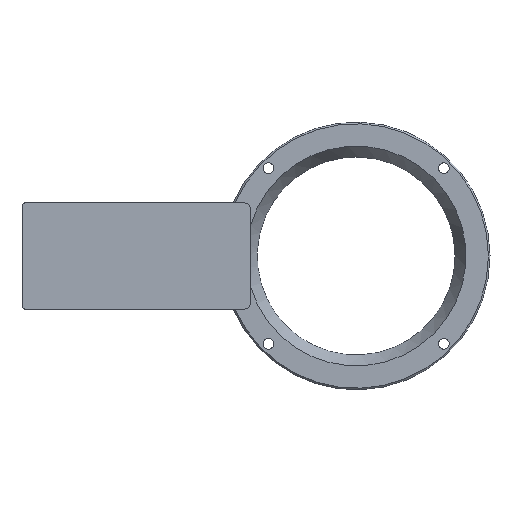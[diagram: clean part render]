
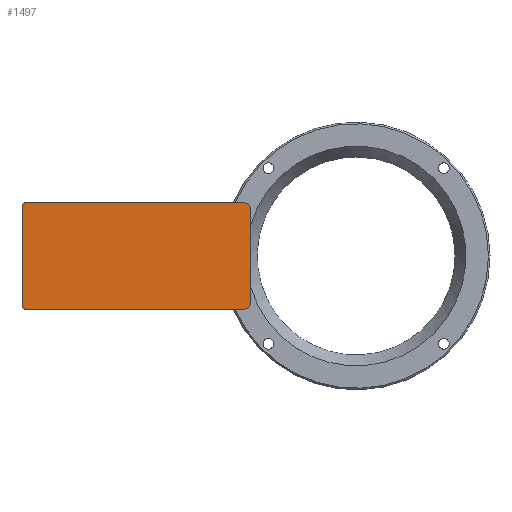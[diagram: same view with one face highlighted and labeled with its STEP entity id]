
A CAD part, front view. The second image highlights one B-rep face of the part: STEP entity #1497.
In plain terms, the highlighted planar face has unit normal (0, -1, 0).
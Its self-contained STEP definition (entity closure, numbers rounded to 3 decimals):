
#44 = PLANE ( 'NONE',  #1165 ) ;
#113 = DIRECTION ( 'NONE',  ( 0., 1., 0. ) ) ;
#390 = ORIENTED_EDGE ( 'NONE', *, *, #2832, .F. ) ;
#411 = AXIS2_PLACEMENT_3D ( 'NONE', #4067, #113, #1003 ) ;
#527 = CARTESIAN_POINT ( 'NONE',  ( -40.926, -51.439, -31.751 ) ) ;
#656 = DIRECTION ( 'NONE',  ( 0., 1., 0. ) ) ;
#705 = VERTEX_POINT ( 'NONE', #3160 ) ;
#811 = LINE ( 'NONE', #2265, #6059 ) ;
#827 = CIRCLE ( 'NONE', #4333, 2. ) ;
#987 = EDGE_LOOP ( 'NONE', ( #2963, #2881, #5434, #5670, #5502, #390, #5607, #4020 ) ) ;
#1003 = DIRECTION ( 'NONE',  ( 0., 0., -1. ) ) ;
#1083 = DIRECTION ( 'NONE',  ( 0., 0., 1. ) ) ;
#1165 = AXIS2_PLACEMENT_3D ( 'NONE', #5943, #4009, #1083 ) ;
#1251 = AXIS2_PLACEMENT_3D ( 'NONE', #5092, #656, #2729 ) ;
#1278 = DIRECTION ( 'NONE',  ( 0., 1., 0. ) ) ;
#1497 = ADVANCED_FACE ( 'NONE', ( #4543 ), #44, .T. ) ;
#1531 = VERTEX_POINT ( 'NONE', #2042 ) ;
#1704 = LINE ( 'NONE', #3682, #2690 ) ;
#2042 = CARTESIAN_POINT ( 'NONE',  ( -39.926, -51.439, -32.751 ) ) ;
#2265 = CARTESIAN_POINT ( 'NONE',  ( 29.074, -51.439, -2.251 ) ) ;
#2374 = CIRCLE ( 'NONE', #411, 1. ) ;
#2394 = DIRECTION ( 'NONE',  ( 0., 0., -1. ) ) ;
#2447 = VERTEX_POINT ( 'NONE', #5202 ) ;
#2552 = VERTEX_POINT ( 'NONE', #4458 ) ;
#2690 = VECTOR ( 'NONE', #5076, 1000. ) ;
#2729 = DIRECTION ( 'NONE',  ( 0., 0., -1. ) ) ;
#2832 = EDGE_CURVE ( 'NONE', #2447, #705, #6016, .T. ) ;
#2881 = ORIENTED_EDGE ( 'NONE', *, *, #2943, .F. ) ;
#2936 = CARTESIAN_POINT ( 'NONE',  ( 29.074, -51.439, -2.251 ) ) ;
#2943 = EDGE_CURVE ( 'NONE', #6144, #2552, #811, .T. ) ;
#2963 = ORIENTED_EDGE ( 'NONE', *, *, #5113, .F. ) ;
#3050 = DIRECTION ( 'NONE',  ( 0., 0., 1. ) ) ;
#3160 = CARTESIAN_POINT ( 'NONE',  ( -40.926, -51.439, -1.251 ) ) ;
#3188 = VECTOR ( 'NONE', #3050, 1000. ) ;
#3236 = VERTEX_POINT ( 'NONE', #6073 ) ;
#3384 = DIRECTION ( 'NONE',  ( 0., 1., 0. ) ) ;
#3420 = DIRECTION ( 'NONE',  ( 0., 0., -1. ) ) ;
#3580 = EDGE_CURVE ( 'NONE', #705, #4741, #5574, .T. ) ;
#3633 = CIRCLE ( 'NONE', #6087, 2. ) ;
#3682 = CARTESIAN_POINT ( 'NONE',  ( -30.926, -51.439, -32.751 ) ) ;
#3948 = EDGE_CURVE ( 'NONE', #3236, #6144, #3633, .T. ) ;
#4009 = DIRECTION ( 'NONE',  ( 0., -1., 0. ) ) ;
#4020 = ORIENTED_EDGE ( 'NONE', *, *, #5937, .F. ) ;
#4067 = CARTESIAN_POINT ( 'NONE',  ( -39.926, -51.439, -31.751 ) ) ;
#4333 = AXIS2_PLACEMENT_3D ( 'NONE', #5477, #3384, #3420 ) ;
#4458 = CARTESIAN_POINT ( 'NONE',  ( 29.074, -51.439, -30.751 ) ) ;
#4536 = CARTESIAN_POINT ( 'NONE',  ( -30.926, -51.439, -0.251 ) ) ;
#4543 = FACE_OUTER_BOUND ( 'NONE', #987, .T. ) ;
#4666 = VECTOR ( 'NONE', #5621, 1000. ) ;
#4741 = VERTEX_POINT ( 'NONE', #5591 ) ;
#4752 = CARTESIAN_POINT ( 'NONE',  ( 27.074, -51.439, -32.751 ) ) ;
#4796 = VERTEX_POINT ( 'NONE', #4752 ) ;
#5076 = DIRECTION ( 'NONE',  ( -1., 0., 0. ) ) ;
#5092 = CARTESIAN_POINT ( 'NONE',  ( -39.926, -51.439, -1.251 ) ) ;
#5113 = EDGE_CURVE ( 'NONE', #2552, #4796, #827, .T. ) ;
#5202 = CARTESIAN_POINT ( 'NONE',  ( -40.926, -51.439, -31.751 ) ) ;
#5434 = ORIENTED_EDGE ( 'NONE', *, *, #3948, .F. ) ;
#5477 = CARTESIAN_POINT ( 'NONE',  ( 27.074, -51.439, -30.751 ) ) ;
#5502 = ORIENTED_EDGE ( 'NONE', *, *, #3580, .F. ) ;
#5574 = CIRCLE ( 'NONE', #1251, 1. ) ;
#5591 = CARTESIAN_POINT ( 'NONE',  ( -39.926, -51.439, -0.251 ) ) ;
#5598 = LINE ( 'NONE', #4536, #4666 ) ;
#5607 = ORIENTED_EDGE ( 'NONE', *, *, #5997, .F. ) ;
#5621 = DIRECTION ( 'NONE',  ( 1., 0., 0. ) ) ;
#5670 = ORIENTED_EDGE ( 'NONE', *, *, #6255, .F. ) ;
#5719 = CARTESIAN_POINT ( 'NONE',  ( 27.074, -51.439, -2.251 ) ) ;
#5780 = DIRECTION ( 'NONE',  ( 0., 0., -1. ) ) ;
#5937 = EDGE_CURVE ( 'NONE', #4796, #1531, #1704, .T. ) ;
#5943 = CARTESIAN_POINT ( 'NONE',  ( -5.926, -51.439, -16.501 ) ) ;
#5997 = EDGE_CURVE ( 'NONE', #1531, #2447, #2374, .T. ) ;
#6016 = LINE ( 'NONE', #527, #3188 ) ;
#6059 = VECTOR ( 'NONE', #2394, 1000. ) ;
#6073 = CARTESIAN_POINT ( 'NONE',  ( 27.074, -51.439, -0.251 ) ) ;
#6087 = AXIS2_PLACEMENT_3D ( 'NONE', #5719, #1278, #5780 ) ;
#6144 = VERTEX_POINT ( 'NONE', #2936 ) ;
#6255 = EDGE_CURVE ( 'NONE', #4741, #3236, #5598, .T. ) ;
